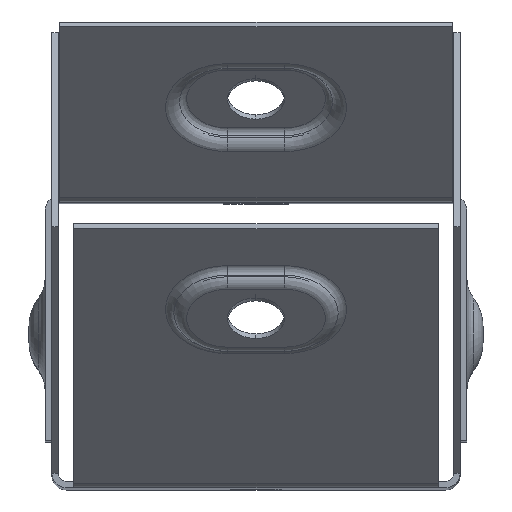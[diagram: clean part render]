
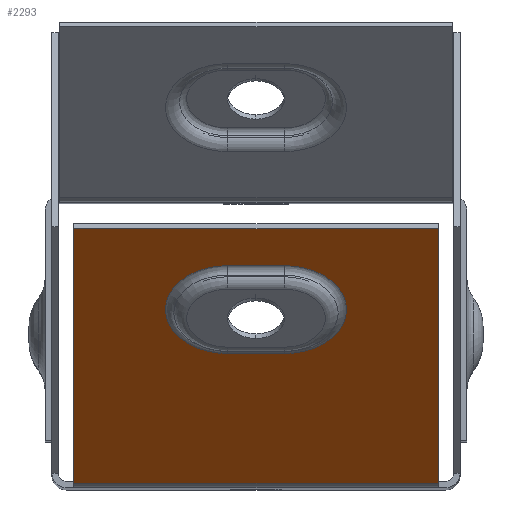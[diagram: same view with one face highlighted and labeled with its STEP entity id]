
A CAD part, top view. The second image highlights one B-rep face of the part: STEP entity #2293.
In plain terms, the highlighted planar face has unit normal (0, -0.707, 0.707).
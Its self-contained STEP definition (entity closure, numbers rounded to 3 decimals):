
#56 = VERTEX_POINT ( 'NONE', #1689 ) ;
#753 = DIRECTION ( 'NONE',  ( 0., 0.707, -0.707 ) ) ;
#761 = VECTOR ( 'NONE', #9691, 1000. ) ;
#800 = LINE ( 'NONE', #1469, #7788 ) ;
#904 = AXIS2_PLACEMENT_3D ( 'NONE', #6231, #3009, #7026 ) ;
#1469 = CARTESIAN_POINT ( 'NONE',  ( 3.5, -8.648, 104.502 ) ) ;
#1612 = CARTESIAN_POINT ( 'NONE',  ( 22.299, -4.122, 109.028 ) ) ;
#1681 = LINE ( 'NONE', #8159, #12364 ) ;
#1689 = CARTESIAN_POINT ( 'NONE',  ( -22.299, -4.122, 109.028 ) ) ;
#1829 = EDGE_CURVE ( 'NONE', #11583, #6959, #5810, .T. ) ;
#1885 = EDGE_CURVE ( 'NONE', #10199, #56, #7599, .T. ) ;
#2293 = ADVANCED_FACE ( 'NONE', ( #6282, #12102 ), #5202, .F. ) ;
#2363 = CIRCLE ( 'NONE', #904, 7.598 ) ;
#2465 = DIRECTION ( 'NONE',  ( 1., 0., 0. ) ) ;
#2916 = EDGE_LOOP ( 'NONE', ( #8345, #6512, #12861, #6242 ) ) ;
#2940 = CARTESIAN_POINT ( 'NONE',  ( -22.299, -35.273, 77.877 ) ) ;
#3006 = EDGE_CURVE ( 'NONE', #6959, #8160, #13368, .T. ) ;
#3009 = DIRECTION ( 'NONE',  ( 0., 0.707, -0.707 ) ) ;
#3348 = VECTOR ( 'NONE', #10450, 1000. ) ;
#3493 = CARTESIAN_POINT ( 'NONE',  ( 3.5, -19.394, 93.756 ) ) ;
#3620 = VERTEX_POINT ( 'NONE', #2940 ) ;
#3821 = AXIS2_PLACEMENT_3D ( 'NONE', #10319, #11304, #13405 ) ;
#3920 = CARTESIAN_POINT ( 'NONE',  ( 22.299, -35.273, 77.877 ) ) ;
#4330 = CARTESIAN_POINT ( 'NONE',  ( -3.5, -19.394, 93.756 ) ) ;
#4430 = EDGE_CURVE ( 'NONE', #9596, #11583, #800, .T. ) ;
#4848 = VECTOR ( 'NONE', #8108, 1000. ) ;
#5021 = CARTESIAN_POINT ( 'NONE',  ( 3.5, -19.394, 93.756 ) ) ;
#5202 = PLANE ( 'NONE',  #3821 ) ;
#5443 = CARTESIAN_POINT ( 'NONE',  ( 3.5, -8.648, 104.502 ) ) ;
#5810 = CIRCLE ( 'NONE', #9299, 7.598 ) ;
#6106 = VECTOR ( 'NONE', #11637, 1000. ) ;
#6169 = DIRECTION ( 'NONE',  ( 0., 0.707, 0.707 ) ) ;
#6231 = CARTESIAN_POINT ( 'NONE',  ( -3.5, -14.021, 99.129 ) ) ;
#6242 = ORIENTED_EDGE ( 'NONE', *, *, #1885, .T. ) ;
#6282 = FACE_BOUND ( 'NONE', #8039, .T. ) ;
#6293 = LINE ( 'NONE', #8692, #761 ) ;
#6512 = ORIENTED_EDGE ( 'NONE', *, *, #11126, .F. ) ;
#6959 = VERTEX_POINT ( 'NONE', #5021 ) ;
#7026 = DIRECTION ( 'NONE',  ( 0., 0.707, 0.707 ) ) ;
#7044 = CARTESIAN_POINT ( 'NONE',  ( 3.5, -14.021, 99.129 ) ) ;
#7483 = CARTESIAN_POINT ( 'NONE',  ( -3.5, -8.648, 104.502 ) ) ;
#7488 = ORIENTED_EDGE ( 'NONE', *, *, #12423, .T. ) ;
#7599 = LINE ( 'NONE', #9078, #4848 ) ;
#7788 = VECTOR ( 'NONE', #2465, 1000. ) ;
#8039 = EDGE_LOOP ( 'NONE', ( #12829, #8123, #12643, #7488 ) ) ;
#8108 = DIRECTION ( 'NONE',  ( -1., 0., 0. ) ) ;
#8123 = ORIENTED_EDGE ( 'NONE', *, *, #1829, .T. ) ;
#8159 = CARTESIAN_POINT ( 'NONE',  ( 22.299, -36.015, 77.135 ) ) ;
#8160 = VERTEX_POINT ( 'NONE', #4330 ) ;
#8345 = ORIENTED_EDGE ( 'NONE', *, *, #11529, .T. ) ;
#8573 = EDGE_CURVE ( 'NONE', #9349, #10199, #1681, .T. ) ;
#8692 = CARTESIAN_POINT ( 'NONE',  ( 23.2, -35.273, 77.877 ) ) ;
#9078 = CARTESIAN_POINT ( 'NONE',  ( 23.2, -4.122, 109.028 ) ) ;
#9299 = AXIS2_PLACEMENT_3D ( 'NONE', #7044, #753, #13187 ) ;
#9349 = VERTEX_POINT ( 'NONE', #3920 ) ;
#9596 = VERTEX_POINT ( 'NONE', #7483 ) ;
#9691 = DIRECTION ( 'NONE',  ( -1., 0., 0. ) ) ;
#9692 = LINE ( 'NONE', #11288, #3348 ) ;
#10199 = VERTEX_POINT ( 'NONE', #1612 ) ;
#10319 = CARTESIAN_POINT ( 'NONE',  ( 23.2, -35.8, 77.35 ) ) ;
#10450 = DIRECTION ( 'NONE',  ( 0., -0.707, -0.707 ) ) ;
#11126 = EDGE_CURVE ( 'NONE', #9349, #3620, #6293, .T. ) ;
#11288 = CARTESIAN_POINT ( 'NONE',  ( -22.299, -35.8, 77.35 ) ) ;
#11304 = DIRECTION ( 'NONE',  ( 0., 0.707, -0.707 ) ) ;
#11529 = EDGE_CURVE ( 'NONE', #56, #3620, #9692, .T. ) ;
#11583 = VERTEX_POINT ( 'NONE', #5443 ) ;
#11637 = DIRECTION ( 'NONE',  ( -1., 0., 0. ) ) ;
#12102 = FACE_OUTER_BOUND ( 'NONE', #2916, .T. ) ;
#12364 = VECTOR ( 'NONE', #6169, 1000. ) ;
#12423 = EDGE_CURVE ( 'NONE', #8160, #9596, #2363, .T. ) ;
#12643 = ORIENTED_EDGE ( 'NONE', *, *, #3006, .T. ) ;
#12829 = ORIENTED_EDGE ( 'NONE', *, *, #4430, .T. ) ;
#12861 = ORIENTED_EDGE ( 'NONE', *, *, #8573, .T. ) ;
#13187 = DIRECTION ( 'NONE',  ( 0., 0.707, 0.707 ) ) ;
#13368 = LINE ( 'NONE', #3493, #6106 ) ;
#13405 = DIRECTION ( 'NONE',  ( 0., 0.707, 0.707 ) ) ;
